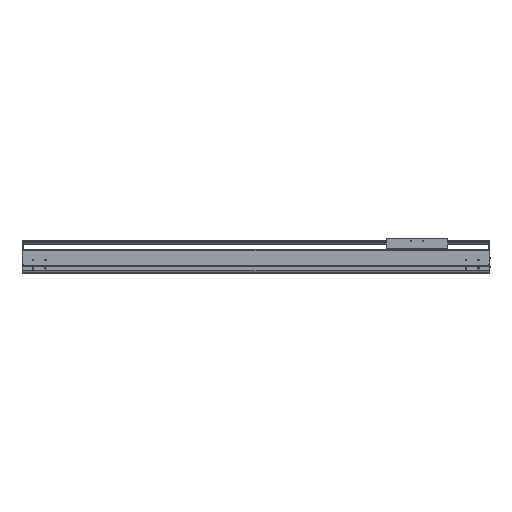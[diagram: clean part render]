
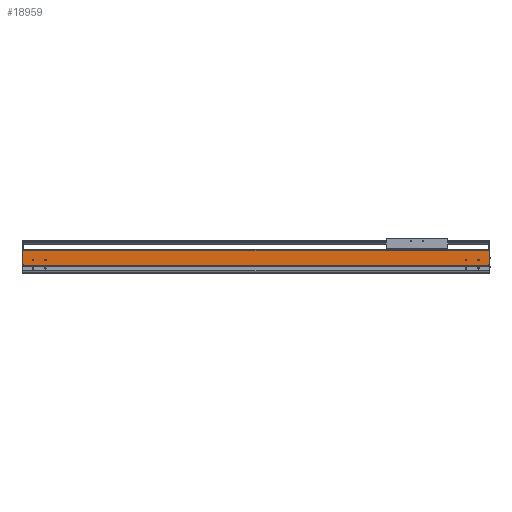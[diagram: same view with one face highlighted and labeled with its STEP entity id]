
A CAD part, top view. The second image highlights one B-rep face of the part: STEP entity #18959.
In plain terms, the highlighted planar face has unit normal (0, 0, 1).
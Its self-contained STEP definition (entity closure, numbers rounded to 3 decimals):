
#3145=DIRECTION('',(1.,0.,0.));
#3146=VECTOR('',#3145,2.);
#3147=CARTESIAN_POINT('',(0.,34.65,107.));
#3148=LINE('',#3147,#3146);
#3153=CARTESIAN_POINT('',(-42.,54.,107.));
#3154=DIRECTION('',(0.,0.,-1.));
#3155=DIRECTION('',(1.,0.,0.));
#3156=AXIS2_PLACEMENT_3D('',#3153,#3154,#3155);
#3158=CARTESIAN_POINT('',(-42.,54.,107.));
#3159=DIRECTION('',(0.,0.,-1.));
#3160=DIRECTION('',(-1.,0.,0.));
#3161=AXIS2_PLACEMENT_3D('',#3158,#3159,#3160);
#3163=CARTESIAN_POINT('',(-92.,54.,107.));
#3164=DIRECTION('',(0.,0.,-1.));
#3165=DIRECTION('',(1.,0.,0.));
#3166=AXIS2_PLACEMENT_3D('',#3163,#3164,#3165);
#3168=CARTESIAN_POINT('',(-92.,54.,107.));
#3169=DIRECTION('',(0.,0.,-1.));
#3170=DIRECTION('',(-1.,0.,0.));
#3171=AXIS2_PLACEMENT_3D('',#3168,#3169,#3170);
#3173=CARTESIAN_POINT('',(-1844.,54.,107.));
#3174=DIRECTION('',(0.,0.,-1.));
#3175=DIRECTION('',(1.,0.,0.));
#3176=AXIS2_PLACEMENT_3D('',#3173,#3174,#3175);
#3178=CARTESIAN_POINT('',(-1844.,54.,107.));
#3179=DIRECTION('',(0.,0.,-1.));
#3180=DIRECTION('',(-1.,0.,0.));
#3181=AXIS2_PLACEMENT_3D('',#3178,#3179,#3180);
#3183=CARTESIAN_POINT('',(-1794.,54.,107.));
#3184=DIRECTION('',(0.,0.,-1.));
#3185=DIRECTION('',(1.,0.,0.));
#3186=AXIS2_PLACEMENT_3D('',#3183,#3184,#3185);
#3188=CARTESIAN_POINT('',(-1794.,54.,107.));
#3189=DIRECTION('',(0.,0.,-1.));
#3190=DIRECTION('',(-1.,0.,0.));
#3191=AXIS2_PLACEMENT_3D('',#3188,#3189,#3190);
#3193=DIRECTION('',(0.,-1.,0.));
#3194=VECTOR('',#3193,2.55);
#3195=CARTESIAN_POINT('',(-1884.,34.65,107.));
#3196=LINE('',#3195,#3194);
#3197=DIRECTION('',(0.,-1.,0.));
#3198=VECTOR('',#3197,58.85);
#3199=CARTESIAN_POINT('',(-1886.,93.5,107.));
#3200=LINE('',#3199,#3198);
#3201=DIRECTION('',(0.,1.,0.));
#3202=VECTOR('',#3201,58.85);
#3203=CARTESIAN_POINT('',(2.,34.65,107.));
#3204=LINE('',#3203,#3202);
#3205=DIRECTION('',(0.,1.,0.));
#3206=VECTOR('',#3205,2.55);
#3207=CARTESIAN_POINT('',(0.,32.1,107.));
#3208=LINE('',#3207,#3206);
#3317=DIRECTION('',(1.,0.,0.));
#3318=VECTOR('',#3317,2.);
#3319=CARTESIAN_POINT('',(-1886.,34.65,107.));
#3320=LINE('',#3319,#3318);
#3329=DIRECTION('',(-1.,0.,0.));
#3330=VECTOR('',#3329,1888.);
#3331=CARTESIAN_POINT('',(2.,93.5,107.));
#3332=LINE('',#3331,#3330);
#11401=DIRECTION('',(1.,0.,0.));
#11402=VECTOR('',#11401,1884.);
#11403=CARTESIAN_POINT('',(-1884.,32.1,107.));
#11404=LINE('',#11403,#11402);
#12709=CARTESIAN_POINT('',(-1886.,34.65,107.));
#12710=VERTEX_POINT('',#12709);
#12711=CARTESIAN_POINT('',(-1886.,93.5,107.));
#12712=VERTEX_POINT('',#12711);
#12933=CARTESIAN_POINT('',(-1884.,32.1,107.));
#12934=VERTEX_POINT('',#12933);
#13005=CARTESIAN_POINT('',(0.,32.1,107.));
#13006=VERTEX_POINT('',#13005);
#13509=CARTESIAN_POINT('',(-39.5,54.,107.));
#13510=CARTESIAN_POINT('',(-44.5,54.,107.));
#13511=VERTEX_POINT('',#13509);
#13512=VERTEX_POINT('',#13510);
#13513=CARTESIAN_POINT('',(-89.5,54.,107.));
#13514=CARTESIAN_POINT('',(-94.5,54.,107.));
#13515=VERTEX_POINT('',#13513);
#13516=VERTEX_POINT('',#13514);
#13517=CARTESIAN_POINT('',(-1841.5,54.,107.));
#13518=CARTESIAN_POINT('',(-1846.5,54.,107.));
#13519=VERTEX_POINT('',#13517);
#13520=VERTEX_POINT('',#13518);
#13521=CARTESIAN_POINT('',(-1791.5,54.,107.));
#13522=CARTESIAN_POINT('',(-1796.5,54.,107.));
#13523=VERTEX_POINT('',#13521);
#13524=VERTEX_POINT('',#13522);
#14754=CARTESIAN_POINT('',(2.,34.65,107.));
#14755=VERTEX_POINT('',#14754);
#14756=CARTESIAN_POINT('',(2.,93.5,107.));
#14757=VERTEX_POINT('',#14756);
#14978=CARTESIAN_POINT('',(0.,34.65,107.));
#14979=VERTEX_POINT('',#14978);
#15290=CARTESIAN_POINT('',(-1884.,34.65,107.));
#15291=VERTEX_POINT('',#15290);
#18917=CARTESIAN_POINT('',(-942.,62.8,107.));
#18918=DIRECTION('',(0.,0.,1.));
#18919=DIRECTION('',(0.,-1.,0.));
#18920=AXIS2_PLACEMENT_3D('',#18917,#18918,#18919);
#18921=PLANE('',#18920);
#18922=ORIENTED_EDGE('',*,*,#16040,.F.);
#18924=ORIENTED_EDGE('',*,*,#18923,.F.);
#18925=ORIENTED_EDGE('',*,*,#17123,.F.);
#18927=ORIENTED_EDGE('',*,*,#18926,.F.);
#18928=ORIENTED_EDGE('',*,*,#18715,.F.);
#18929=ORIENTED_EDGE('',*,*,#18910,.F.);
#18930=ORIENTED_EDGE('',*,*,#16648,.F.);
#18932=ORIENTED_EDGE('',*,*,#18931,.F.);
#18933=EDGE_LOOP('',(#18922,#18924,#18925,#18927,#18928,#18929,#18930,#18932));
#18934=FACE_OUTER_BOUND('',#18933,.F.);
#18936=ORIENTED_EDGE('',*,*,#18935,.F.);
#18938=ORIENTED_EDGE('',*,*,#18937,.F.);
#18939=EDGE_LOOP('',(#18936,#18938));
#18940=FACE_BOUND('',#18939,.F.);
#18942=ORIENTED_EDGE('',*,*,#18941,.F.);
#18944=ORIENTED_EDGE('',*,*,#18943,.F.);
#18945=EDGE_LOOP('',(#18942,#18944));
#18946=FACE_BOUND('',#18945,.F.);
#18948=ORIENTED_EDGE('',*,*,#18947,.F.);
#18950=ORIENTED_EDGE('',*,*,#18949,.F.);
#18951=EDGE_LOOP('',(#18948,#18950));
#18952=FACE_BOUND('',#18951,.F.);
#18954=ORIENTED_EDGE('',*,*,#18953,.F.);
#18956=ORIENTED_EDGE('',*,*,#18955,.F.);
#18957=EDGE_LOOP('',(#18954,#18956));
#18958=FACE_BOUND('',#18957,.F.);
#18959=ADVANCED_FACE('',(#18934,#18940,#18946,#18952,#18958),#18921,.T.);
#3157=CIRCLE('',#3156,2.5);
#3162=CIRCLE('',#3161,2.5);
#3167=CIRCLE('',#3166,2.5);
#3172=CIRCLE('',#3171,2.5);
#3177=CIRCLE('',#3176,2.5);
#3182=CIRCLE('',#3181,2.5);
#3187=CIRCLE('',#3186,2.5);
#3192=CIRCLE('',#3191,2.5);
#16040=EDGE_CURVE('',#15291,#12934,#3196,.T.);
#16648=EDGE_CURVE('',#13006,#14979,#3208,.T.);
#17123=EDGE_CURVE('',#12712,#12710,#3200,.T.);
#18715=EDGE_CURVE('',#14755,#14757,#3204,.T.);
#18910=EDGE_CURVE('',#14979,#14755,#3148,.T.);
#18923=EDGE_CURVE('',#12710,#15291,#3320,.T.);
#18926=EDGE_CURVE('',#14757,#12712,#3332,.T.);
#18931=EDGE_CURVE('',#12934,#13006,#11404,.T.);
#18935=EDGE_CURVE('',#13515,#13516,#3167,.T.);
#18937=EDGE_CURVE('',#13516,#13515,#3172,.T.);
#18941=EDGE_CURVE('',#13519,#13520,#3177,.T.);
#18943=EDGE_CURVE('',#13520,#13519,#3182,.T.);
#18947=EDGE_CURVE('',#13523,#13524,#3187,.T.);
#18949=EDGE_CURVE('',#13524,#13523,#3192,.T.);
#18953=EDGE_CURVE('',#13511,#13512,#3157,.T.);
#18955=EDGE_CURVE('',#13512,#13511,#3162,.T.);
